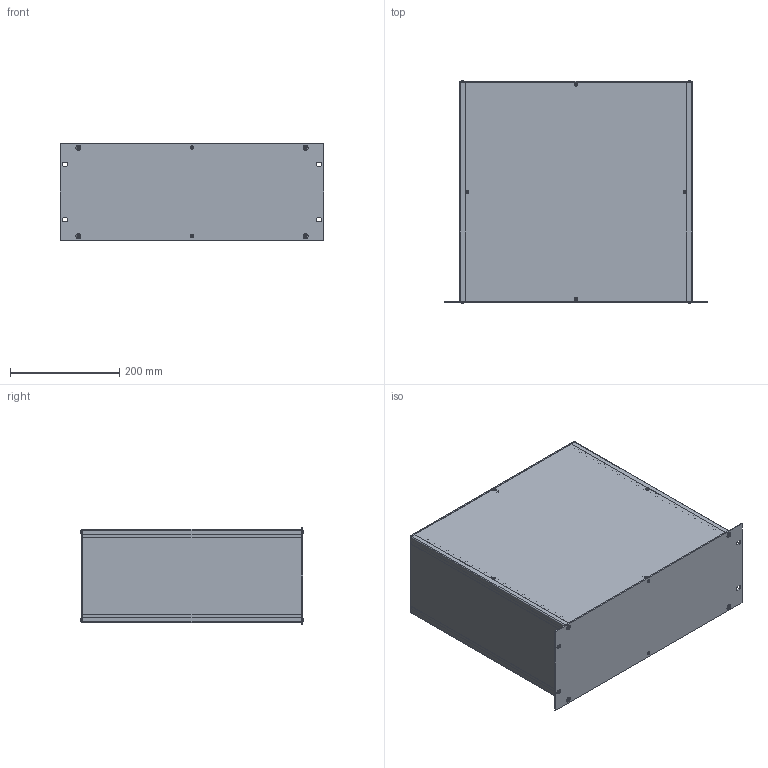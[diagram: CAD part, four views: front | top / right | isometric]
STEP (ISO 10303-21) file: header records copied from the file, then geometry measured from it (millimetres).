
FILE_DESCRIPTION(/* description */ (''),/* implementation_level */ '2;1');
FILE_NAME(/* name */ '//diskstation/Kunden/Gehäuse/Gehäuse/4HE/step/19 Zoll 3HE Rack Gehäuse Tiefe-400.step',/* time_stamp */ '2022-02-17T16:00:08+01:00',/* author */ (''),/* organization */ (''),/* preprocessor_version */ 'ST-DEVELOPER v18.1',/* originating_system */ 'Autodesk Translation Framework v10.10.0.1391',/* authorisation */ '');
FILE_SCHEMA (('AUTOMOTIVE_DESIGN { 1 0 10303 214 3 1 1 }'));
Length unit declared in the file: millimetre
Products named in the file (28): 4HE Gehäuse mit parametern; Gehäuse; Gehäuseprofil 1 unten links; Gehäuseprofil 2 oben rechts; Gehäuseprofil 1 unten rechts; Gehäuseprofil 2 oben links; Rückplatte; Deckel; Seitenteil links; Seitenteil rechts; Bodenplatte; Montageklotz Front/Deckel; Montageklotz Front/Boden; Montageklotz Rück/Deckel; Montageklotz Rück/Boden; Gewindestreifen; Frontplatte; Schrauben M5; Schraube Front; Schraube Front (1); Schraube Front (2); Schraube Front (3); Schraube Rück (1); Schraube Rück; Schraube Rück (2); Schraube Rück (3); Schrauben M3; HI_Senkschraube DIN 965 A v2 M3x5 24677.030.005(High)
Assembly tree (37 placements, depth 3):
  4HE Gehäuse mit parametern
    Gehäuse
      Gehäuseprofil 1 unten links
      Gehäuseprofil 2 oben rechts
      Gehäuseprofil 1 unten rechts
      Gehäuseprofil 2 oben links
      Rückplatte
      Deckel
      Seitenteil links
      Seitenteil rechts
      Bodenplatte
      Montageklotz Front/Deckel
      Montageklotz Front/Boden
      Montageklotz Rück/Deckel
      Montageklotz Rück/Boden
      Gewindestreifen  x2
    Frontplatte
    Schrauben M5
      Schraube Front
      Schraube Front (1)
      Schraube Front (2)
      Schraube Front (3)
      Schraube Rück (1)
      Schraube Rück
      Schraube Rück (2)
      Schraube Rück (3)
    Schrauben M3
      HI_Senkschraube DIN 965 A v2 M3x5 24677.030.005(High)  x10
Bounding box: 483 x 408.2 x 177 mm (x, y, z)
Volume: 1593321.7 mm3; surface area: 1394293 mm2
Topology: 34 solids, 34 shells, 914 faces, 2256 edges, 1410 vertices
Faces by surface type: cylinder 392, plane 342, cone 164, torus 8, bspline 8
Full cylindrical faces by diameter (mm): 2.529 x150, 3 x10, 3.2 x10, 4.234 x40, 5 x8, 5.2 x4, 5.3 x8, 5.6 x10, 9.5 x8
Entity records: 18015 total; most frequent: CARTESIAN_POINT 3258, DIRECTION 3030, ORIENTED_EDGE 2670, EDGE_CURVE 1335, AXIS2_PLACEMENT_3D 1150, VERTEX_POINT 838, EDGE_LOOP 821, LINE 730
